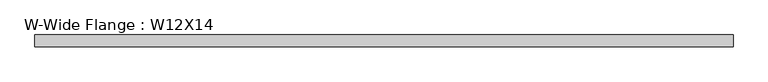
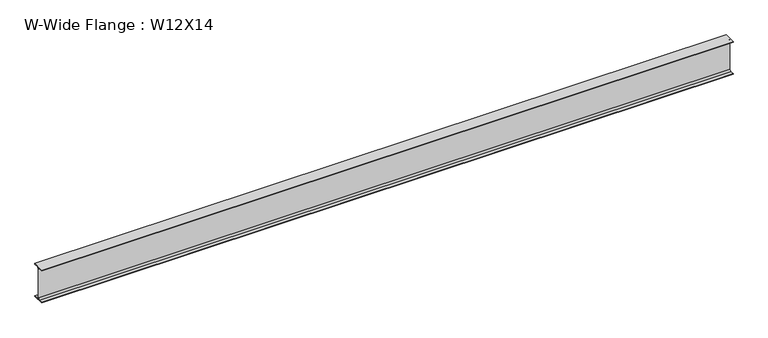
"""IFC4 building model written with IfcOpenShell, lengths in millimetres: beam geometry, W-Wide Flange : W12X14."""

from ifc_helpers import new_model, si_unit, point, frame, frame_2d, origin, place, context, project, spatial, polyline, circle_curve, trimmed, segment, composite_curve, outline, extrude, source, transform, mapped, element, save


def w_wide_flange_w12x14_1646f01c(model_context):
    return source(origin(), model_context, "Body", "SweptSolid", [
        extrude(outline(composite_curve([segment(polyline([(50.419, -145.415), (50.419, -151.13), (-50.419, -151.13), (-50.419, -145.415), (-15.875, -145.415)]), True, "CONTINUOUS"), segment(trimmed(circle_curve(frame_2d((-15.875, -132.08)), 13.335), [point((-15.875, -145.415))], [point((-2.54, -132.08))], True, "CARTESIAN"), True, "CONTINUOUS"), segment(polyline([(-2.54, -132.08), (-2.54, 132.08)]), True, "CONTINUOUS"), segment(trimmed(circle_curve(frame_2d((-15.875, 132.08)), 13.335), [point((-2.54, 132.08))], [point((-15.875, 145.415))], True, "CARTESIAN"), True, "CONTINUOUS"), segment(polyline([(-15.875, 145.415), (-50.419, 145.415), (-50.419, 151.13), (50.419, 151.13), (50.419, 145.415), (15.875, 145.415)]), True, "CONTINUOUS"), segment(trimmed(circle_curve(frame_2d((15.875, 132.08)), 13.335), [point((15.875, 145.415))], [point((2.54, 132.08))], True, "CARTESIAN"), True, "CONTINUOUS"), segment(polyline([(2.54, 132.08), (2.54, -132.08)]), True, "CONTINUOUS"), segment(trimmed(circle_curve(frame_2d((15.875, -132.08)), 13.335), [point((2.54, -132.08))], [point((15.875, -145.415))], True, "CARTESIAN"), True, "CONTINUOUS"), segment(polyline([(15.875, -145.415), (50.419, -145.415)]), True, "CONTINUOUS")], self_intersect=False)), frame((-2958.846, 0.0, 0.0), z_axis=(1.0, 0.0, 0.0), x_axis=(0.0, 1.0, 0.0)), (0.0, 0.0, 1.0), 6006.846),
    ])


if __name__ == "__main__":
    model = new_model("IFC4")
    model_context = context("Model", 3, world=origin())
    ifc_project = project(units=[si_unit("LENGTHUNIT", "METRE", prefix="MILLI")], contexts=[model_context])
    site = spatial("IfcSite", under=ifc_project)
    building = spatial("IfcBuilding", under=site)
    placement = place(None, origin())
    w_wide_flange_w12x14_shape = w_wide_flange_w12x14_1646f01c(model_context)
    element("IfcBeam", 1, ObjectType="W-Wide Flange : W12X14", at=placement, inside=building, context=model_context, shape_type="MappedRepresentation", body=[
        mapped(w_wide_flange_w12x14_shape, transform((0.0, 0.0, 0.0), x_axis=(1.0, 0.0, 0.0), y_axis=(0.0, 1.0, 0.0), z_axis=(0.0, 0.0, 1.0))),
    ])
    save(model, "model.ifc")
